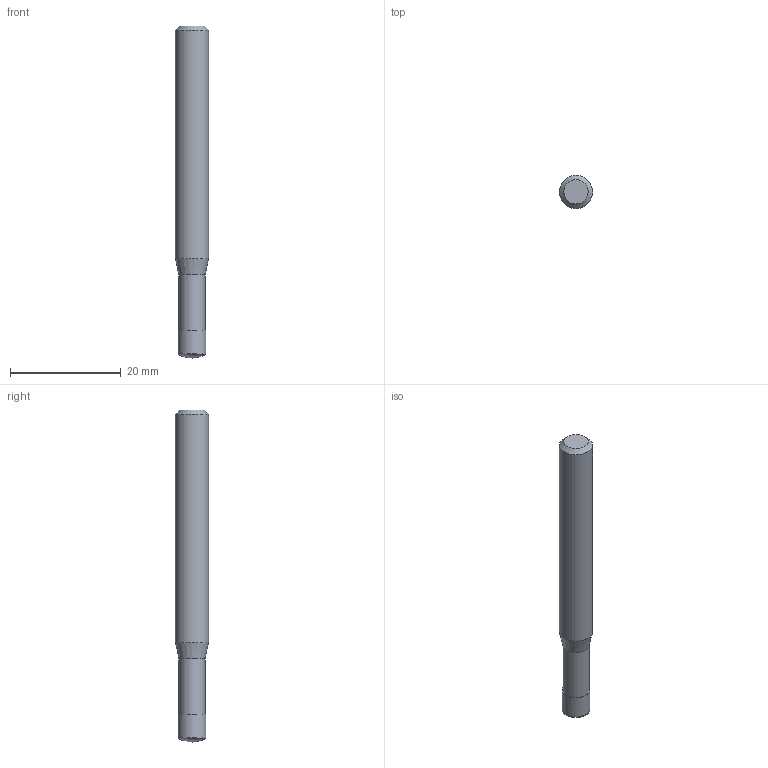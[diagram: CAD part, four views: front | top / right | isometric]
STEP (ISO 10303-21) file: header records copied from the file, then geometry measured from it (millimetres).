
FILE_DESCRIPTION((''),'2;1');
FILE_NAME('C:\Users\nsx150\AppData\Local\Temp\Mastercam 2022\ZJNICECW0E\TEMP.stp','2023-10-12T14:30:53',(''),(''),'STEP Write','Mastercam 2022 ... CNC Software, Inc.','');
FILE_SCHEMA(('AUTOMOTIVE_DESIGN'));
Length unit declared in the file: millimetre
Products named in the file (1): None
Bounding box: 6 x 6 x 60 mm (x, y, z)
Volume: 1519.7 mm3; surface area: 1137.5 mm2
Topology: 2 solids, 2 shells, 11 faces, 17 edges, 10 vertices
Faces by surface type: plane 4, cylinder 3, cone 2, sphere 1, torus 1
Full cylindrical faces by diameter (mm): 4.75 x1, 5 x1, 6 x1
Entity records: 253 total; most frequent: DIRECTION 44, CARTESIAN_POINT 31, AXIS2_PLACEMENT_3D 22, ORIENTED_EDGE 18, EDGE_LOOP 18, STYLED_ITEM 14, FACE_BOUND 11, ADVANCED_FACE 11
